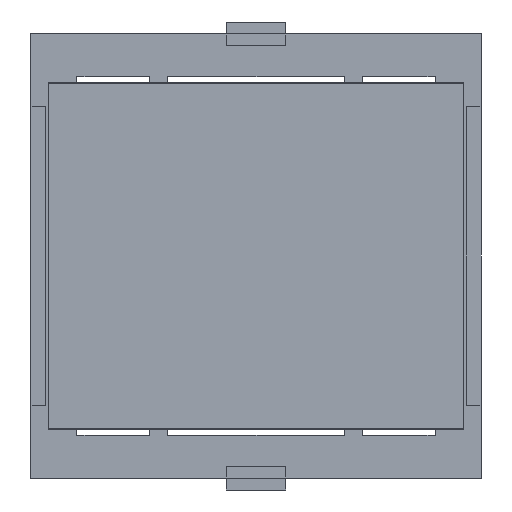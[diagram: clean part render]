
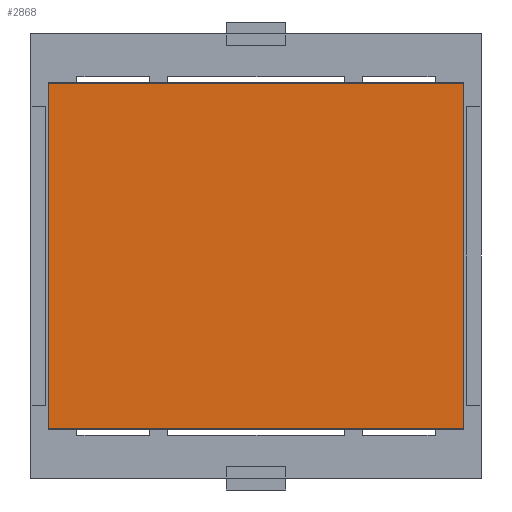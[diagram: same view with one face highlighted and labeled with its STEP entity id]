
A CAD part, front view. The second image highlights one B-rep face of the part: STEP entity #2868.
In plain terms, the highlighted planar face has unit normal (0, -1, 0).
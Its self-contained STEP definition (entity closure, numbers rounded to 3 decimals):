
#116 = DIRECTION ( 'NONE',  ( 0., 0., 1. ) ) ;
#120 = DIRECTION ( 'NONE',  ( 0., 0., 1. ) ) ;
#214 = VERTEX_POINT ( 'NONE', #3184 ) ;
#225 = ORIENTED_EDGE ( 'NONE', *, *, #6222, .F. ) ;
#618 = CARTESIAN_POINT ( 'NONE',  ( 19.086, -18.701, -2.749 ) ) ;
#1007 = VERTEX_POINT ( 'NONE', #4595 ) ;
#1291 = LINE ( 'NONE', #2896, #4524 ) ;
#1631 = AXIS2_PLACEMENT_3D ( 'NONE', #5607, #6609, #116 ) ;
#1810 = CARTESIAN_POINT ( 'NONE',  ( 19.086, -18.701, -2.749 ) ) ;
#2187 = ORIENTED_EDGE ( 'NONE', *, *, #3534, .F. ) ;
#2200 = CARTESIAN_POINT ( 'NONE',  ( -15.712, -18.701, -2.749 ) ) ;
#2254 = CARTESIAN_POINT ( 'NONE',  ( 19.086, -18.701, 26.207 ) ) ;
#2381 = VERTEX_POINT ( 'NONE', #618 ) ;
#2868 = ADVANCED_FACE ( 'NONE', ( #6686 ), #3421, .F. ) ;
#2881 = DIRECTION ( 'NONE',  ( 1., 0., 0. ) ) ;
#2896 = CARTESIAN_POINT ( 'NONE',  ( -15.712, -18.701, -2.749 ) ) ;
#2970 = EDGE_CURVE ( 'NONE', #2381, #214, #6553, .T. ) ;
#2996 = VECTOR ( 'NONE', #6772, 1000. ) ;
#3184 = CARTESIAN_POINT ( 'NONE',  ( -15.712, -18.701, -2.749 ) ) ;
#3219 = VERTEX_POINT ( 'NONE', #2254 ) ;
#3296 = EDGE_LOOP ( 'NONE', ( #2187, #4218, #225, #3717 ) ) ;
#3421 = PLANE ( 'NONE',  #1631 ) ;
#3534 = EDGE_CURVE ( 'NONE', #214, #1007, #1291, .T. ) ;
#3712 = VECTOR ( 'NONE', #6514, 1000. ) ;
#3717 = ORIENTED_EDGE ( 'NONE', *, *, #4708, .F. ) ;
#4015 = CARTESIAN_POINT ( 'NONE',  ( -15.712, -18.701, 26.207 ) ) ;
#4218 = ORIENTED_EDGE ( 'NONE', *, *, #2970, .F. ) ;
#4524 = VECTOR ( 'NONE', #120, 1000. ) ;
#4547 = VECTOR ( 'NONE', #2881, 1000. ) ;
#4595 = CARTESIAN_POINT ( 'NONE',  ( -15.712, -18.701, 26.207 ) ) ;
#4708 = EDGE_CURVE ( 'NONE', #1007, #3219, #6750, .T. ) ;
#5607 = CARTESIAN_POINT ( 'NONE',  ( -15.712, -18.701, 26.207 ) ) ;
#6222 = EDGE_CURVE ( 'NONE', #3219, #2381, #6735, .T. ) ;
#6514 = DIRECTION ( 'NONE',  ( -1., 0., 0. ) ) ;
#6553 = LINE ( 'NONE', #2200, #3712 ) ;
#6609 = DIRECTION ( 'NONE',  ( 0., 1., 0. ) ) ;
#6686 = FACE_OUTER_BOUND ( 'NONE', #3296, .T. ) ;
#6735 = LINE ( 'NONE', #1810, #2996 ) ;
#6750 = LINE ( 'NONE', #4015, #4547 ) ;
#6772 = DIRECTION ( 'NONE',  ( 0., 0., -1. ) ) ;
